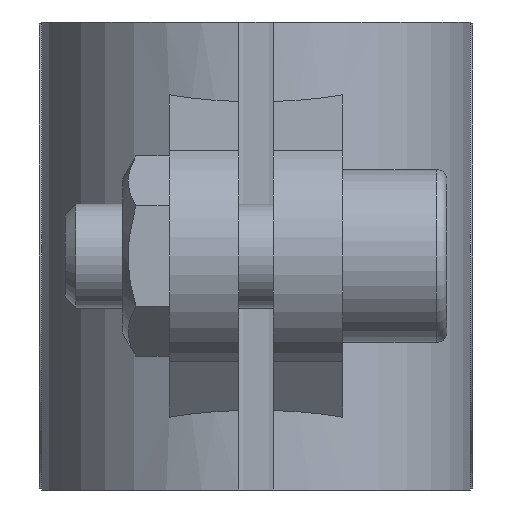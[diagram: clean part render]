
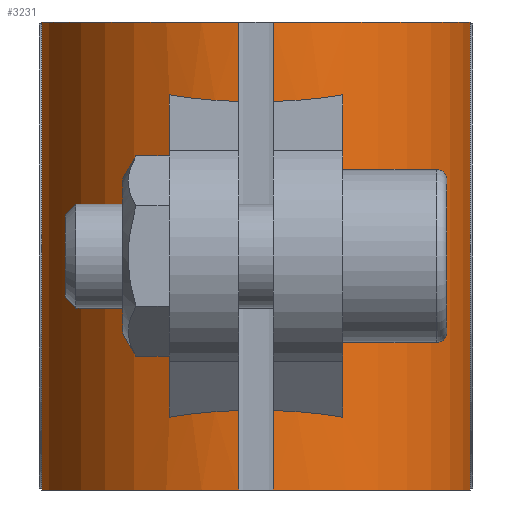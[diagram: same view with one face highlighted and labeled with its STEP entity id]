
A CAD part, front view. The second image highlights one B-rep face of the part: STEP entity #3231.
In plain terms, the highlighted cylindrical face has radius 12.4 mm (diameter 24.8 mm), a partial arc.
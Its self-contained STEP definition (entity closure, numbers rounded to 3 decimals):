
#2417=CARTESIAN_POINT('',(1.0,-12.36,-13.5));
#2418=VERTEX_POINT('',#2417);
#2425=CARTESIAN_POINT('',(1.,-12.36,-8.912));
#2426=VERTEX_POINT('',#2425);
#2427=CARTESIAN_POINT('',(1.0,-12.36,-8.912));
#2428=DIRECTION('',(0.0,0.0,-1.0));
#2429=VECTOR('',#2428,4.588);
#2430=LINE('',#2427,#2429);
#2431=EDGE_CURVE('',#2426,#2418,#2430,.T.);
#2450=CARTESIAN_POINT('',(1.,-12.36,8.912));
#2451=VERTEX_POINT('',#2450);
#2458=CARTESIAN_POINT('',(1.0,-12.36,13.5));
#2459=VERTEX_POINT('',#2458);
#2460=CARTESIAN_POINT('',(1.0,-12.36,13.5));
#2461=DIRECTION('',(0.0,0.0,-1.0));
#2462=VECTOR('',#2461,4.588);
#2463=LINE('',#2460,#2462);
#2464=EDGE_CURVE('',#2459,#2451,#2463,.T.);
#2501=CARTESIAN_POINT('',(-1.0,-12.36,13.5));
#2502=VERTEX_POINT('',#2501);
#2509=CARTESIAN_POINT('',(-1.,-12.36,8.912));
#2510=VERTEX_POINT('',#2509);
#2511=CARTESIAN_POINT('',(-1.0,-12.36,8.912));
#2512=DIRECTION('',(0.0,0.0,1.0));
#2513=VECTOR('',#2512,4.588);
#2514=LINE('',#2511,#2513);
#2515=EDGE_CURVE('',#2510,#2502,#2514,.T.);
#2534=CARTESIAN_POINT('',(-1.,-12.36,-8.912));
#2535=VERTEX_POINT('',#2534);
#2542=CARTESIAN_POINT('',(-1.0,-12.36,-13.5));
#2543=VERTEX_POINT('',#2542);
#2544=CARTESIAN_POINT('',(-1.0,-12.36,-13.5));
#2545=DIRECTION('',(0.0,0.0,1.0));
#2546=VECTOR('',#2545,4.588);
#2547=LINE('',#2544,#2546);
#2548=EDGE_CURVE('',#2543,#2535,#2547,.T.);
#2641=CARTESIAN_POINT('',(-5.0,-11.347,-9.297));
#2642=VERTEX_POINT('',#2641);
#2649=CARTESIAN_POINT('',(0.0,0.0,-13.616));
#2650=DIRECTION('',(0.0,-0.356,-0.935));
#2651=DIRECTION('',(0.0,-0.935,0.356));
#2652=AXIS2_PLACEMENT_3D('',#2649,#2650,#2651);
#2653=ELLIPSE('',#2652,13.268,12.4);
#2654=EDGE_CURVE('',#2535,#2642,#2653,.T.);
#2665=CARTESIAN_POINT('',(5.0,-11.347,-9.297));
#2666=VERTEX_POINT('',#2665);
#2667=CARTESIAN_POINT('',(0.0,0.0,-13.616));
#2668=DIRECTION('',(0.0,-0.356,-0.935));
#2669=DIRECTION('',(0.0,-0.935,0.356));
#2670=AXIS2_PLACEMENT_3D('',#2667,#2668,#2669);
#2671=ELLIPSE('',#2670,13.268,12.4);
#2672=EDGE_CURVE('',#2666,#2426,#2671,.T.);
#2690=CARTESIAN_POINT('',(-5.0,-11.347,9.297));
#2691=VERTEX_POINT('',#2690);
#2692=CARTESIAN_POINT('',(0.0,0.0,13.616));
#2693=DIRECTION('',(0.0,-0.356,0.935));
#2694=DIRECTION('',(0.0,-0.935,-0.356));
#2695=AXIS2_PLACEMENT_3D('',#2692,#2693,#2694);
#2696=ELLIPSE('',#2695,13.268,12.4);
#2697=EDGE_CURVE('',#2691,#2510,#2696,.T.);
#2723=CARTESIAN_POINT('',(0.0,0.0,-13.5));
#2724=DIRECTION('',(0.0,0.0,1.0));
#2725=DIRECTION('',(-1.0,0.0,0.0));
#2726=AXIS2_PLACEMENT_3D('',#2723,#2724,#2725);
#2727=CIRCLE('',#2726,12.4);
#2728=EDGE_CURVE('',#2418,#2543,#2727,.T.);
#3007=CARTESIAN_POINT('',(5.0,-11.347,9.297));
#3008=VERTEX_POINT('',#3007);
#3009=CARTESIAN_POINT('',(5.0,-11.347,9.297));
#3010=DIRECTION('',(0.0,0.0,-1.0));
#3011=VECTOR('',#3010,18.594);
#3012=LINE('',#3009,#3011);
#3013=EDGE_CURVE('',#3008,#2666,#3012,.T.);
#3037=CARTESIAN_POINT('',(0.0,0.0,13.616));
#3038=DIRECTION('',(0.0,-0.356,0.935));
#3039=DIRECTION('',(0.0,-0.935,-0.356));
#3040=AXIS2_PLACEMENT_3D('',#3037,#3038,#3039);
#3041=ELLIPSE('',#3040,13.268,12.4);
#3042=EDGE_CURVE('',#2451,#3008,#3041,.T.);
#3052=CARTESIAN_POINT('',(-5.0,-11.347,-9.297));
#3053=DIRECTION('',(0.0,0.0,1.0));
#3054=VECTOR('',#3053,18.594);
#3055=LINE('',#3052,#3054);
#3056=EDGE_CURVE('',#2642,#2691,#3055,.T.);
#3097=CARTESIAN_POINT('',(0.,12.4,8.92));
#3098=VERTEX_POINT('',#3097);
#3099=CARTESIAN_POINT('',(0.,12.4,8.92));
#3100=CARTESIAN_POINT('',(-1.031,12.4,8.92));
#3101=CARTESIAN_POINT('',(-2.131,12.26,8.77));
#3102=CARTESIAN_POINT('',(-4.149,11.732,8.119));
#3103=CARTESIAN_POINT('',(-5.067,11.347,7.611));
#3104=CARTESIAN_POINT('',(-6.117,10.793,6.703));
#3105=CARTESIAN_POINT('',(-6.443,10.6,6.364));
#3106=CARTESIAN_POINT('',(-7.02,10.228,5.618));
#3107=CARTESIAN_POINT('',(-7.27,10.048,5.213));
#3108=CARTESIAN_POINT('',(-7.816,9.636,4.144));
#3109=CARTESIAN_POINT('',(-8.094,9.397,3.347));
#3110=CARTESIAN_POINT('',(-8.45,9.078,1.677));
#3111=CARTESIAN_POINT('',(-8.53,9.,0.804));
#3112=CARTESIAN_POINT('',(-8.53,9.,-0.804));
#3113=CARTESIAN_POINT('',(-8.45,9.078,-1.677));
#3114=CARTESIAN_POINT('',(-8.094,9.397,-3.347));
#3115=CARTESIAN_POINT('',(-7.816,9.636,-4.144));
#3116=CARTESIAN_POINT('',(-7.27,10.048,-5.213));
#3117=CARTESIAN_POINT('',(-7.02,10.228,-5.618));
#3118=CARTESIAN_POINT('',(-6.443,10.6,-6.364));
#3119=CARTESIAN_POINT('',(-6.117,10.793,-6.703));
#3120=CARTESIAN_POINT('',(-5.067,11.347,-7.611));
#3121=CARTESIAN_POINT('',(-4.149,11.732,-8.119));
#3122=CARTESIAN_POINT('',(-2.131,12.26,-8.77));
#3123=CARTESIAN_POINT('',(-1.031,12.4,-8.92));
#3124=CARTESIAN_POINT('',(1.031,12.4,-8.92));
#3125=CARTESIAN_POINT('',(2.131,12.26,-8.77));
#3126=CARTESIAN_POINT('',(4.149,11.732,-8.119));
#3127=CARTESIAN_POINT('',(5.067,11.347,-7.611));
#3128=CARTESIAN_POINT('',(6.117,10.793,-6.703));
#3129=CARTESIAN_POINT('',(6.443,10.6,-6.364));
#3130=CARTESIAN_POINT('',(7.02,10.228,-5.618));
#3131=CARTESIAN_POINT('',(7.27,10.048,-5.213));
#3132=CARTESIAN_POINT('',(7.816,9.636,-4.144));
#3133=CARTESIAN_POINT('',(8.094,9.397,-3.347));
#3134=CARTESIAN_POINT('',(8.45,9.078,-1.677));
#3135=CARTESIAN_POINT('',(8.53,9.,-0.804));
#3136=CARTESIAN_POINT('',(8.53,9.,0.804));
#3137=CARTESIAN_POINT('',(8.45,9.078,1.677));
#3138=CARTESIAN_POINT('',(8.094,9.397,3.347));
#3139=CARTESIAN_POINT('',(7.816,9.636,4.144));
#3140=CARTESIAN_POINT('',(7.27,10.048,5.213));
#3141=CARTESIAN_POINT('',(7.02,10.228,5.618));
#3142=CARTESIAN_POINT('',(6.443,10.6,6.364));
#3143=CARTESIAN_POINT('',(6.117,10.793,6.703));
#3144=CARTESIAN_POINT('',(5.067,11.347,7.611));
#3145=CARTESIAN_POINT('',(4.149,11.732,8.119));
#3146=CARTESIAN_POINT('',(2.131,12.26,8.77));
#3147=CARTESIAN_POINT('',(1.031,12.4,8.92));
#3148=CARTESIAN_POINT('',(0.,12.4,8.92));
#3149=B_SPLINE_CURVE_WITH_KNOTS('',3,(#3099,#3100,#3101,#3102,#3103,#3104,#3105,#3106,#3107,#3108,#3109,#3110,#3111,#3112,#3113,#3114,#3115,#3116,#3117,#3118,#3119,#3120,#3121,#3122,#3123,#3124,#3125,#3126,#3127,#3128,#3129,#3130,#3131,#3132,#3133,#3134,#3135,#3136,#3137,#3138,#3139,#3140,#3141,#3142,#3143,#3144,#3145,#3146,#3147,#3148),.UNSPECIFIED.,.T.,.U.,(4,2,2,2,2,2,2,2,2,2,2,2,2,2,2,2,2,2,2,2,2,2,2,2,4),(0.0,0.309,0.618,0.758,0.897,1.138,1.38,1.621,1.862,2.001,2.141,2.45,2.759,3.068,3.378,3.517,3.656,3.897,4.139,4.38,4.621,4.761,4.9,5.209,5.518),.UNSPECIFIED.);
#3150=EDGE_CURVE('',#3098,#3098,#3149,.T.);
#3203=CARTESIAN_POINT('',(0.0,0.0,0.0));
#3204=DIRECTION('',(0.0,0.0,1.0));
#3205=DIRECTION('',(-1.0,0.0,0.0));
#3206=AXIS2_PLACEMENT_3D('',#3203,#3204,#3205);
#3207=CYLINDRICAL_SURFACE('',#3206,12.4);
#3208=ORIENTED_EDGE('',*,*,#2464,.T.);
#3209=ORIENTED_EDGE('',*,*,#3042,.T.);
#3210=ORIENTED_EDGE('',*,*,#3013,.T.);
#3211=ORIENTED_EDGE('',*,*,#2672,.T.);
#3212=ORIENTED_EDGE('',*,*,#2431,.T.);
#3213=ORIENTED_EDGE('',*,*,#2728,.T.);
#3214=ORIENTED_EDGE('',*,*,#2548,.T.);
#3215=ORIENTED_EDGE('',*,*,#2654,.T.);
#3216=ORIENTED_EDGE('',*,*,#3056,.T.);
#3217=ORIENTED_EDGE('',*,*,#2697,.T.);
#3218=ORIENTED_EDGE('',*,*,#2515,.T.);
#3219=CARTESIAN_POINT('',(0.0,0.0,13.5));
#3220=DIRECTION('',(0.0,0.0,-1.0));
#3221=DIRECTION('',(-1.0,0.0,0.0));
#3222=AXIS2_PLACEMENT_3D('',#3219,#3220,#3221);
#3223=CIRCLE('',#3222,12.4);
#3224=EDGE_CURVE('',#2502,#2459,#3223,.T.);
#3225=ORIENTED_EDGE('',*,*,#3224,.T.);
#3226=EDGE_LOOP('',(#3208,#3209,#3210,#3211,#3212,#3213,#3214,#3215,#3216,#3217,#3218,#3225));
#3227=FACE_OUTER_BOUND('',#3226,.T.);
#3228=ORIENTED_EDGE('',*,*,#3150,.T.);
#3229=EDGE_LOOP('',(#3228));
#3230=FACE_BOUND('',#3229,.T.);
#3231=ADVANCED_FACE('',(#3227,#3230),#3207,.T.);
